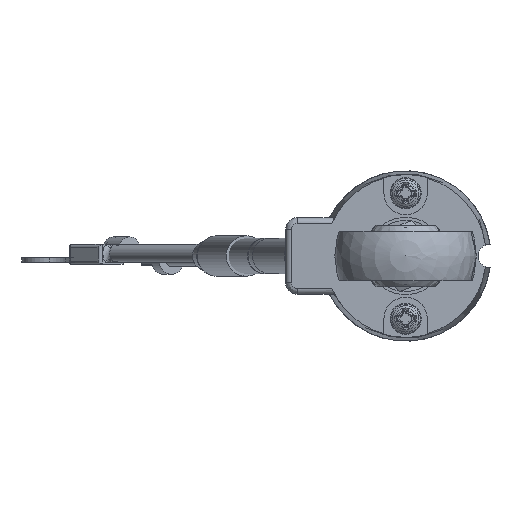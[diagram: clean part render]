
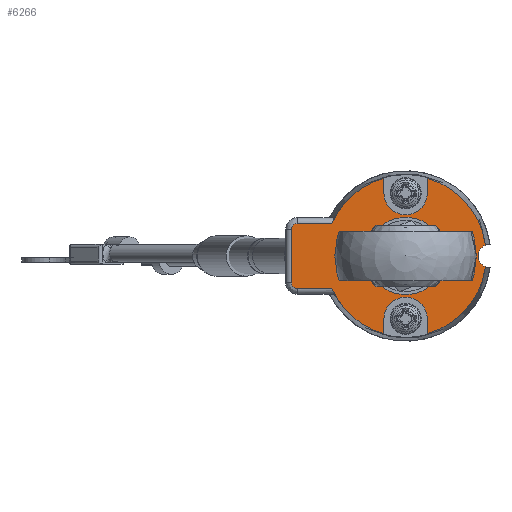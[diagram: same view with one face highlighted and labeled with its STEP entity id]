
A CAD part, left-side view. The second image highlights one B-rep face of the part: STEP entity #6266.
In plain terms, the highlighted planar face has unit normal (-1, 0, 0).
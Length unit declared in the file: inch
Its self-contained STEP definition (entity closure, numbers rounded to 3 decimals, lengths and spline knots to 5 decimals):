
#549=ELLIPSE('',#6668,0.03003,0.03);
#550=ELLIPSE('',#6672,0.03003,0.03);
#769=PLANE('',#6674);
#907=LINE('',#9189,#1098);
#908=LINE('',#9221,#1099);
#909=LINE('',#9264,#1100);
#910=LINE('',#9271,#1101);
#911=LINE('',#9275,#1102);
#912=LINE('',#9283,#1103);
#913=LINE('',#9286,#1104);
#1098=VECTOR('',#7464,0.17464);
#1099=VECTOR('',#7473,0.26985);
#1100=VECTOR('',#7480,0.17464);
#1101=VECTOR('',#7487,0.07568);
#1102=VECTOR('',#7490,0.07568);
#1103=VECTOR('',#7497,0.07568);
#1104=VECTOR('',#7500,0.07568);
#1277=FACE_BOUND('',#1818,.T.);
#1461=FACE_OUTER_BOUND('',#1817,.T.);
#1817=EDGE_LOOP('',(#4393,#4394,#4395,#4396,#4397,#4398,#4399,#4400,#4401,
#4402,#4403,#4404,#4405,#4406,#4407,#4408));
#1818=EDGE_LOOP('',(#4409));
#2310=CIRCLE('',#6637,0.105);
#2323=CIRCLE('',#6675,0.41);
#2324=CIRCLE('',#6676,0.41);
#2325=CIRCLE('',#6677,0.11);
#2326=CIRCLE('',#6678,0.41);
#2327=CIRCLE('',#6679,0.06);
#2328=CIRCLE('',#6680,0.41);
#2329=CIRCLE('',#6681,0.11);
#2641=VERTEX_POINT('',#9032);
#2664=VERTEX_POINT('',#9173);
#2665=VERTEX_POINT('',#9175);
#2666=VERTEX_POINT('',#9215);
#2667=VERTEX_POINT('',#9219);
#2668=VERTEX_POINT('',#9247);
#2669=VERTEX_POINT('',#9251);
#2670=VERTEX_POINT('',#9266);
#2671=VERTEX_POINT('',#9268);
#2672=VERTEX_POINT('',#9270);
#2673=VERTEX_POINT('',#9272);
#2674=VERTEX_POINT('',#9274);
#2675=VERTEX_POINT('',#9276);
#2676=VERTEX_POINT('',#9278);
#2677=VERTEX_POINT('',#9280);
#2678=VERTEX_POINT('',#9282);
#2679=VERTEX_POINT('',#9284);
#3381=EDGE_CURVE('',#2641,#2641,#2310,.T.);
#3417=EDGE_CURVE('',#2665,#2664,#907,.T.);
#3419=EDGE_CURVE('',#2664,#2666,#549,.T.);
#3421=EDGE_CURVE('',#2666,#2667,#908,.T.);
#3423=EDGE_CURVE('',#2667,#2668,#550,.T.);
#3425=EDGE_CURVE('',#2668,#2669,#909,.T.);
#3426=EDGE_CURVE('',#2669,#2670,#2323,.T.);
#3427=EDGE_CURVE('',#2671,#2665,#2324,.T.);
#3428=EDGE_CURVE('',#2671,#2672,#910,.T.);
#3429=EDGE_CURVE('',#2672,#2673,#2325,.T.);
#3430=EDGE_CURVE('',#2673,#2674,#911,.T.);
#3431=EDGE_CURVE('',#2675,#2674,#2326,.T.);
#3432=EDGE_CURVE('',#2675,#2676,#2327,.T.);
#3433=EDGE_CURVE('',#2677,#2676,#2328,.T.);
#3434=EDGE_CURVE('',#2677,#2678,#912,.T.);
#3435=EDGE_CURVE('',#2678,#2679,#2329,.T.);
#3436=EDGE_CURVE('',#2679,#2670,#913,.T.);
#4393=ORIENTED_EDGE('',*,*,#3426,.F.);
#4394=ORIENTED_EDGE('',*,*,#3425,.F.);
#4395=ORIENTED_EDGE('',*,*,#3423,.F.);
#4396=ORIENTED_EDGE('',*,*,#3421,.F.);
#4397=ORIENTED_EDGE('',*,*,#3419,.F.);
#4398=ORIENTED_EDGE('',*,*,#3417,.F.);
#4399=ORIENTED_EDGE('',*,*,#3427,.F.);
#4400=ORIENTED_EDGE('',*,*,#3428,.T.);
#4401=ORIENTED_EDGE('',*,*,#3429,.T.);
#4402=ORIENTED_EDGE('',*,*,#3430,.T.);
#4403=ORIENTED_EDGE('',*,*,#3431,.F.);
#4404=ORIENTED_EDGE('',*,*,#3432,.T.);
#4405=ORIENTED_EDGE('',*,*,#3433,.F.);
#4406=ORIENTED_EDGE('',*,*,#3434,.T.);
#4407=ORIENTED_EDGE('',*,*,#3435,.T.);
#4408=ORIENTED_EDGE('',*,*,#3436,.T.);
#4409=ORIENTED_EDGE('',*,*,#3381,.T.);
#6266=ADVANCED_FACE('',(#1461,#1277),#769,.T.);
#6637=AXIS2_PLACEMENT_3D('',#9033,#7391,#7392);
#6668=AXIS2_PLACEMENT_3D('',#9217,#7467,#7468);
#6672=AXIS2_PLACEMENT_3D('',#9249,#7476,#7477);
#6674=AXIS2_PLACEMENT_3D('',#9265,#7481,#7482);
#6675=AXIS2_PLACEMENT_3D('',#9267,#7483,#7484);
#6676=AXIS2_PLACEMENT_3D('',#9269,#7485,#7486);
#6677=AXIS2_PLACEMENT_3D('',#9273,#7488,#7489);
#6678=AXIS2_PLACEMENT_3D('',#9277,#7491,#7492);
#6679=AXIS2_PLACEMENT_3D('',#9279,#7493,#7494);
#6680=AXIS2_PLACEMENT_3D('',#9281,#7495,#7496);
#6681=AXIS2_PLACEMENT_3D('',#9285,#7498,#7499);
#7391=DIRECTION('center_axis',(1.,0.,0.));
#7392=DIRECTION('ref_axis',(0.,0.,1.));
#7464=DIRECTION('',(0.,1.,0.));
#7467=DIRECTION('center_axis',(1.,0.,0.));
#7468=DIRECTION('ref_axis',(0.,0.,-1.));
#7473=DIRECTION('',(0.,0.,1.));
#7476=DIRECTION('center_axis',(1.,0.,0.));
#7477=DIRECTION('ref_axis',(0.,0.,1.));
#7480=DIRECTION('',(0.,-1.,0.));
#7481=DIRECTION('center_axis',(-1.,0.,0.));
#7482=DIRECTION('ref_axis',(0.,0.,1.));
#7483=DIRECTION('center_axis',(1.,0.,0.));
#7484=DIRECTION('ref_axis',(0.,1.,0.));
#7485=DIRECTION('center_axis',(1.,0.,0.));
#7486=DIRECTION('ref_axis',(0.,1.,0.));
#7487=DIRECTION('',(0.,0.,1.));
#7488=DIRECTION('center_axis',(1.,0.,0.));
#7489=DIRECTION('ref_axis',(0.,-1.,0.));
#7490=DIRECTION('',(0.,0.,-1.));
#7491=DIRECTION('center_axis',(1.,0.,0.));
#7492=DIRECTION('ref_axis',(0.,1.,0.));
#7493=DIRECTION('center_axis',(1.,0.,0.));
#7494=DIRECTION('ref_axis',(0.,0.,-1.));
#7495=DIRECTION('center_axis',(1.,0.,0.));
#7496=DIRECTION('ref_axis',(0.,1.,0.));
#7497=DIRECTION('',(0.,0.,-1.));
#7498=DIRECTION('center_axis',(1.,0.,0.));
#7499=DIRECTION('ref_axis',(0.,1.,0.));
#7500=DIRECTION('',(0.,0.,1.));
#9032=CARTESIAN_POINT('',(-0.3,0.,0.105));
#9033=CARTESIAN_POINT('Origin',(-0.3,0.,0.));
#9173=CARTESIAN_POINT('',(-0.3,0.55,-0.16495));
#9175=CARTESIAN_POINT('',(-0.3,0.37536,-0.16495));
#9189=CARTESIAN_POINT('',(-0.3,0.2825,-0.16495));
#9215=CARTESIAN_POINT('',(-0.3,0.58,-0.13492));
#9217=CARTESIAN_POINT('Origin',(-0.3,0.55,-0.13492));
#9219=CARTESIAN_POINT('',(-0.3,0.58,0.13492));
#9221=CARTESIAN_POINT('',(-0.3,0.58,-0.04401));
#9247=CARTESIAN_POINT('',(-0.3,0.55,0.16495));
#9249=CARTESIAN_POINT('Origin',(-0.3,0.55,0.13492));
#9251=CARTESIAN_POINT('',(-0.3,0.37536,0.16495));
#9264=CARTESIAN_POINT('',(-0.3,0.2825,0.16495));
#9265=CARTESIAN_POINT('Origin',(-0.3,0.205,0.));
#9266=CARTESIAN_POINT('',(-0.3,0.11,0.39497));
#9267=CARTESIAN_POINT('Origin',(-0.3,0.,0.));
#9268=CARTESIAN_POINT('',(-0.3,0.11,-0.39497));
#9269=CARTESIAN_POINT('Origin',(-0.3,0.,0.));
#9270=CARTESIAN_POINT('',(-0.3,0.11,-0.31929));
#9271=CARTESIAN_POINT('',(-0.3,0.11,-0.15964));
#9272=CARTESIAN_POINT('',(-0.3,-0.11,-0.31929));
#9273=CARTESIAN_POINT('Origin',(-0.3,0.,-0.31929));
#9274=CARTESIAN_POINT('',(-0.3,-0.11,-0.39497));
#9275=CARTESIAN_POINT('',(-0.3,-0.11,-0.22431));
#9276=CARTESIAN_POINT('',(-0.3,-0.40622,-0.05555));
#9277=CARTESIAN_POINT('Origin',(-0.3,0.,0.));
#9278=CARTESIAN_POINT('',(-0.3,-0.40622,0.05555));
#9279=CARTESIAN_POINT('Origin',(-0.3,-0.42889,0.));
#9280=CARTESIAN_POINT('',(-0.3,-0.11,0.39497));
#9281=CARTESIAN_POINT('Origin',(-0.3,0.,0.));
#9282=CARTESIAN_POINT('',(-0.3,-0.11,0.31929));
#9283=CARTESIAN_POINT('',(-0.3,-0.11,0.15964));
#9284=CARTESIAN_POINT('',(-0.3,0.11,0.31929));
#9285=CARTESIAN_POINT('Origin',(-0.3,0.,0.31929));
#9286=CARTESIAN_POINT('',(-0.3,0.11,0.22431));
